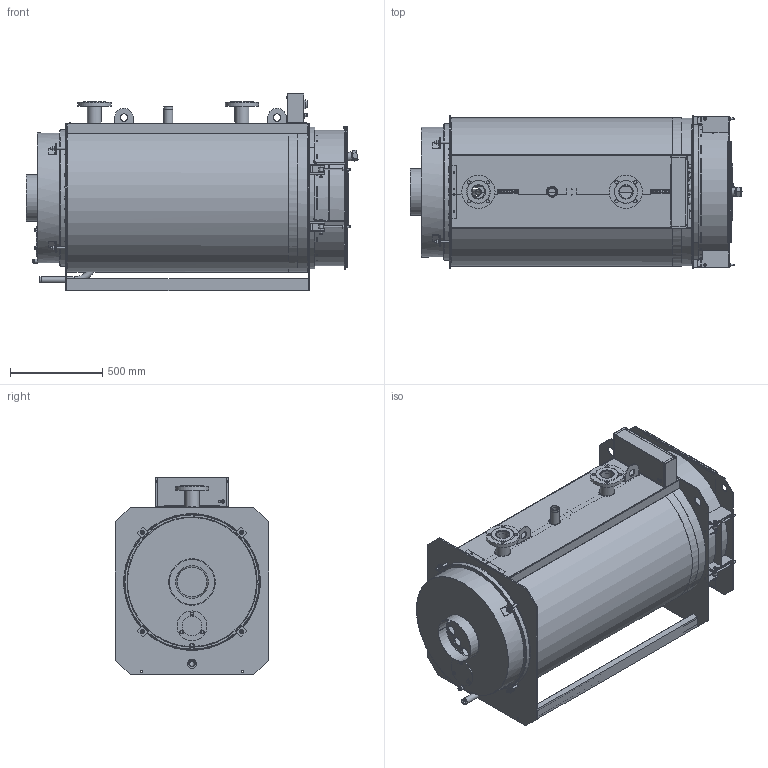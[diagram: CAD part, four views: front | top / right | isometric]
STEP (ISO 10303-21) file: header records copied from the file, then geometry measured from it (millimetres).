
FILE_DESCRIPTION(('STEP AP242'), '1');
FILE_NAME('TITAN Prom 4 (300 êÂò)', '', ('UNSPECIFIED'), ('UNSPECIFIED'), 'ASCON STEP Converter 1.6', 'ASCON Math Kernel', '');
FILE_SCHEMA(('AP242_MANAGED_MODEL_BASED_3D_ENGINEERING_MIM_LF { 1 0 10303 442 1 1 4 }'));
Length unit declared in the file: millimetre
Bounding box: 1800.29 x 830 x 1073.16 mm (x, y, z)
Volume: 84877093.9 mm3; surface area: 17645429.9 mm2
Topology: 38 solids, 38 shells, 3090 faces, 7678 edges, 4899 vertices
Faces by surface type: plane 1907, cylinder 872, cone 205, bspline 62, torus 29, extrusion 9, sphere 6
Full cylindrical faces by diameter (mm): 2 x4, 2.8 x27, 3 x1, 3.2 x4, 3.5 x8, 3.6 x4, 4 x12, 4.1 x2, 4.5 x12, 4.8 x1, 5 x17, 6 x5, 7 x2, 7.6 x1, 8 x3, 9 x2, 9.25 x4, 9.5 x8, 9.728 x1, 10 x30, 10.106 x5, 10.5 x1, 11 x16, 12 x23, 13 x13, 13.5 x4, 14 x8, 14.5 x1, 15 x3, 15.7 x1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
Entity records: 169259 total; most frequent: CARTESIAN_POINT 73028, ORIENTED_EDGE 14164, DIRECTION 14049, EDGE_CURVE 7082, AXIS2_PLACEMENT_3D 4974, VERTEX_POINT 4883, EDGE_LOOP 4295, VECTOR 4101
